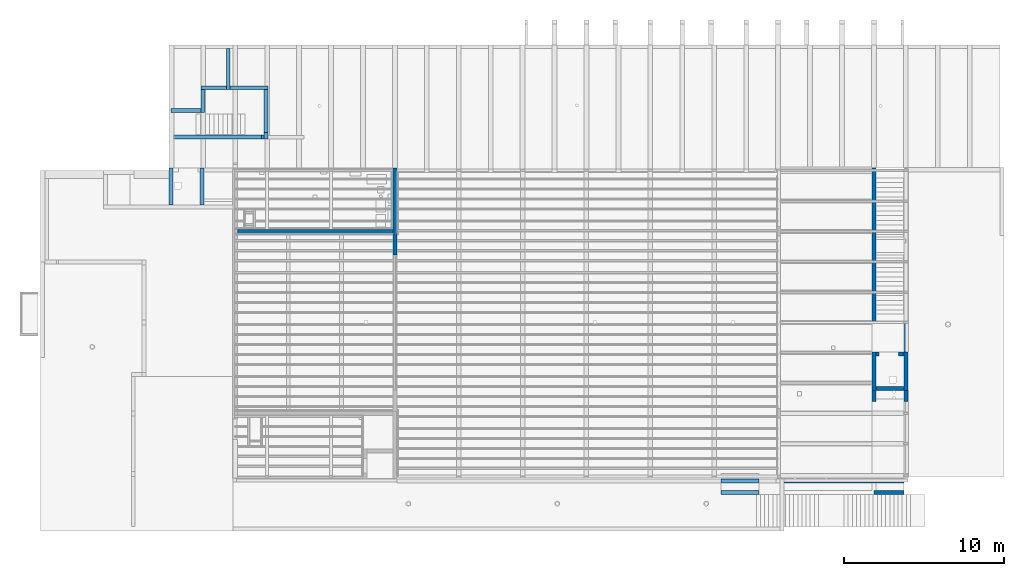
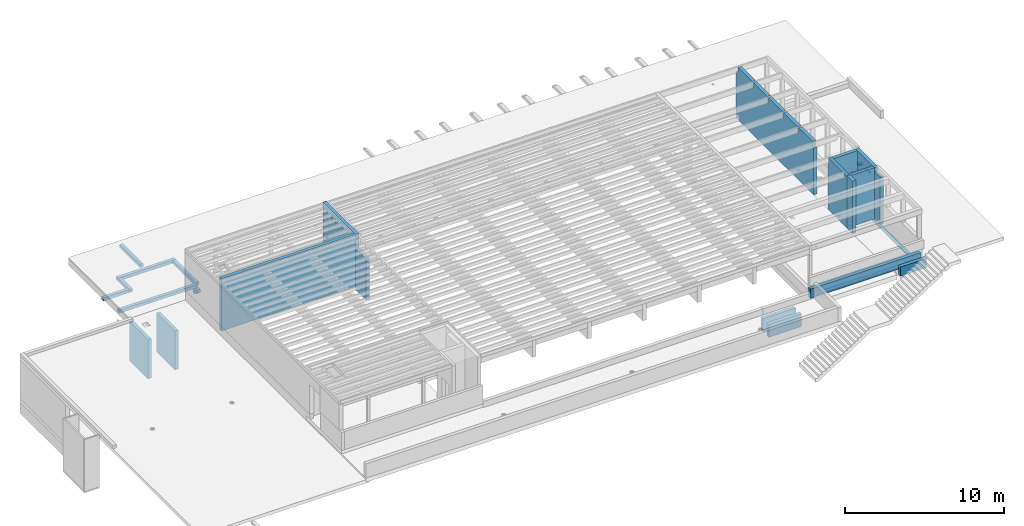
# One storey, part 11 of 14: 25 walls, 16 openings.
"""IFC2X3 building model written with IfcOpenShell, lengths in metres."""

from ifc_helpers import new_model, entity, si_unit, converted_unit, direction, frame, frame_2d, origin, place, context, subcontext, project, spatial, polyline, rectangle, extrude, clip, bounded_halfspace, faceted_brep, material, layer, layer_set, layer_usage, type_object, element, save


model = new_model("IFC2X3")

# Units and contexts
model_context = context("Model", 3, precision=1e-05, world=frame((30.086303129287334, 2.687674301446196, 462.0)), true_north=direction((0.19008937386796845, 0.9817667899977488)))
body_context = subcontext(model_context, "Body", "Model", "MODEL_VIEW")
ifc_project = project(units=[si_unit("LENGTHUNIT", "METRE"), si_unit("AREAUNIT", "SQUARE_METRE"), converted_unit("PLANEANGLEUNIT", "DEGREE", entity("IfcPlaneAngleMeasure", 0.017453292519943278), si_unit("PLANEANGLEUNIT", "RADIAN"), dimensions=[0, 0, 0, 0, 0, 0, 0]), si_unit("VOLUMEUNIT", "CUBIC_METRE")], contexts=[model_context])

# Site, building, storey
site_placement = place(None, origin())
site = spatial("IfcSite", under=ifc_project, at=site_placement, Name="Default", CompositionType="ELEMENT")
building_placement = place(site_placement, origin())
building = spatial("IfcBuilding", under=site, at=building_placement, CompositionType="ELEMENT")
storey_placement = place(building_placement, origin())
storey = spatial("IfcBuildingStorey", under=building, at=storey_placement, Name="FB_E00_OKFB", CompositionType="ELEMENT", Elevation=0.0)

# Walls
ifc_material = material(Name="WS_CONCRETE_REINFORCED")
ifc_layer_1 = layer(ifc_material, 0.24999999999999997)
ifc_layer_set_1 = layer_set([ifc_layer_1], Name="Basiswand:WS_WAL_CON_250")
ifc_layer_usage_1 = layer_usage(ifc_layer_set_1, "AXIS2", "POSITIVE", -0.12499999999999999)
wall_type_1 = type_object("IfcWallType", Name="Basiswand:WS_WAL_CON_250", PredefinedType="STANDARD", material=ifc_layer_set_1)
wall_1_placement = place(storey_placement, frame((48.030338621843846, -1.1696478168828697, 0.7799999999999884), z_axis=(0.0, 0.0, 1.0), x_axis=(0.0, -1.0, 0.0)))
element("IfcWallStandardCase", 1, at=wall_1_placement, inside=storey, type_object=wall_type_1, material=ifc_layer_usage_1, Name="Basiswand:WS_WAL_CON_250", ObjectType="Basiswand:WS_WAL_CON_250", context=body_context, shape_type="SweptSolid", body=[
    extrude(rectangle(XDim=2.299960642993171, YDim=0.24999999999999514, at=frame_2d((1.1499803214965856, 0.0), x_axis=(-1.0, 0.0))), origin(), (0.0, 0.0, 1.0), 3.005000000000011),
])
ifc_layer_usage_2 = layer_usage(ifc_layer_set_1, "AXIS2", "POSITIVE", -0.12499999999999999)
wall_2_placement = place(storey_placement, frame((46.08033900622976, -3.4696084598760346, 0.7799999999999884), z_axis=(0.0, 0.0, 1.0), x_axis=(0.0, 1.0, 0.0)))
element("IfcWallStandardCase", 2, at=wall_2_placement, inside=storey, type_object=wall_type_1, material=ifc_layer_usage_2, Name="Basiswand:WS_WAL_CON_250", ObjectType="Basiswand:WS_WAL_CON_250", context=body_context, shape_type="SweptSolid", body=[
    extrude(rectangle(XDim=2.299960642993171, YDim=0.24999999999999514, at=frame_2d((1.1499803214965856, 0.0), x_axis=(-1.0, 0.0))), origin(), (0.0, 0.0, 1.0), 3.005000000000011),
])

# Wall, opening
ifc_layer_usage_3 = layer_usage(ifc_layer_set_1, "AXIS2", "NEGATIVE", 0.12499999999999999)
wall_3_placement = place(storey_placement, frame((60.105337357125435, -1.179604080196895, 4.035), z_axis=(0.0, 0.0, 1.0), x_axis=(0.0, -1.0, 0.0)))
wall_3 = element("IfcWallStandardCase", 3, at=wall_3_placement, inside=storey, type_object=wall_type_1, material=ifc_layer_usage_3, Name="Basiswand:WS_WAL_CON_250", ObjectType="Basiswand:WS_WAL_CON_250", context=body_context, shape_type="SweptSolid", body=[
    extrude(rectangle(XDim=4.080044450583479, YDim=0.25000000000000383, at=frame_2d((2.0400222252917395, -5.419276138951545e-15), x_axis=(-1.0, 0.0))), origin(), (0.0, 0.0, 1.0), 4.004999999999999),
])
opening_1_placement = place(wall_3_placement, origin())
element("IfcOpeningElement", 4, at=opening_1_placement, cuts=wall_3, Name="Basiswand:WS_WAL_CON_250", ObjectType="Opening", context=body_context, shape_type="SweptSolid", body=[
    extrude(rectangle(XDim=0.39999999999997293, YDim=0.39999999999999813, at=frame_2d((0.0, 2.7755575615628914e-16), x_axis=(1.0, 0.0))), frame((1.3493479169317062, -0.12499999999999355, 3.545000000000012), z_axis=(0.0, 1.0, 0.0), x_axis=(0.0, 0.0, -1.0)), (0.0, 0.0, 1.0), 0.24999999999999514),
])

# Wall
ifc_layer_usage_4 = layer_usage(ifc_layer_set_1, "AXIS2", "NEGATIVE", 0.12499999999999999)
wall_4_placement = place(storey_placement, frame((59.98033735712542, -5.134648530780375, 4.035), z_axis=(0.0, 0.0, 1.0), x_axis=(-1.0, 0.0, 0.0)))
element("IfcWallStandardCase", 5, at=wall_4_placement, inside=storey, type_object=wall_type_1, material=ifc_layer_usage_4, Name="Basiswand:WS_WAL_CON_250", ObjectType="Basiswand:WS_WAL_CON_250", context=body_context, shape_type="SweptSolid", body=[
    extrude(rectangle(XDim=9.735000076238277, YDim=0.2499999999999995, at=frame_2d((4.867500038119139, -4.85722573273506e-17), x_axis=(-1.0, 0.0))), origin(), (0.0, 0.0, 1.0), 4.004999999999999),
])

# Wall, openings
ifc_layer_usage_5 = layer_usage(ifc_layer_set_1, "AXIS2", "NEGATIVE", 0.12499999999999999)
wall_5_placement = place(storey_placement, frame((90.10533735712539, -1.1546477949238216, 3.984999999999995), z_axis=(0.0, 0.0, 1.0), x_axis=(0.0, -1.0, 0.0)))
wall_5 = element("IfcWallStandardCase", 6, at=wall_5_placement, inside=storey, type_object=wall_type_1, material=ifc_layer_usage_5, Name="Basiswand:WS_WAL_CON_250", ObjectType="Basiswand:WS_WAL_CON_250", context=body_context, shape_type="SweptSolid", body=[
    extrude(rectangle(XDim=9.73999963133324, YDim=0.25000000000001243, at=frame_2d((4.86999981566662, 6.938893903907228e-17), x_axis=(-1.0, 0.0))), origin(), (0.0, 0.0, 1.0), 4.020000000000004),
])
opening_2_placement = place(wall_5_placement, origin())
element("IfcOpeningElement", 7, at=opening_2_placement, cuts=wall_5, Name="Basiswand:WS_WAL_CON_250", ObjectType="Opening", context=body_context, shape_type="SweptSolid", body=[
    extrude(rectangle(XDim=0.42499999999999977, YDim=0.20995449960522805, at=frame_2d((1.0824674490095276e-15, 6.245004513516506e-17), x_axis=(1.0, 0.0))), frame((0.10497724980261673, -0.12500000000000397, 3.807500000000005), z_axis=(0.0, 1.0, 0.0), x_axis=(0.0, 0.0, -1.0)), (0.0, 0.0, 1.0), 0.2500000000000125),
])
opening_3_placement = place(wall_5_placement, origin())
element("IfcOpeningElement", 8, at=opening_3_placement, cuts=wall_5, Name="Basiswand:WS_WAL_CON_250", ObjectType="Opening", context=body_context, shape_type="SweptSolid", body=[
    extrude(rectangle(XDim=0.42499999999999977, YDim=0.13999999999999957, at=frame_2d((-5.412337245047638e-16, 8.118505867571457e-16), x_axis=(1.0, 0.0))), frame((2.079999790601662, -0.12500000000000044, 3.8075000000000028), z_axis=(0.0, 1.0, 0.0), x_axis=(0.0, 0.0, -1.0)), (0.0, 0.0, 1.0), 0.2500000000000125),
])
opening_4_placement = place(wall_5_placement, origin())
element("IfcOpeningElement", 9, at=opening_4_placement, cuts=wall_5, Name="Basiswand:WS_WAL_CON_250", ObjectType="Opening", context=body_context, shape_type="SweptSolid", body=[
    extrude(rectangle(XDim=0.42499999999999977, YDim=0.13999999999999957, at=frame_2d((-5.412337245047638e-16, 5.412337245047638e-16), x_axis=(1.0, 0.0))), frame((3.979999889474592, -0.12499999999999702, 3.8075000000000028), z_axis=(0.0, 1.0, 0.0), x_axis=(0.0, 0.0, -1.0)), (0.0, 0.0, 1.0), 0.2500000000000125),
])
opening_5_placement = place(wall_5_placement, origin())
element("IfcOpeningElement", 10, at=opening_5_placement, cuts=wall_5, Name="Basiswand:WS_WAL_CON_250", ObjectType="Opening", context=body_context, shape_type="SweptSolid", body=[
    extrude(rectangle(XDim=0.42499999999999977, YDim=0.13999999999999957, at=frame_2d((-5.412337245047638e-16, -5.412337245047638e-16), x_axis=(1.0, 0.0))), frame((5.879999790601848, -0.12499999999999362, 3.8075000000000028), z_axis=(0.0, 1.0, 0.0), x_axis=(0.0, 0.0, -1.0)), (0.0, 0.0, 1.0), 0.2500000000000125),
])
opening_6_placement = place(wall_5_placement, origin())
element("IfcOpeningElement", 11, at=opening_6_placement, cuts=wall_5, Name="Basiswand:WS_WAL_CON_250", ObjectType="Opening", context=body_context, shape_type="SweptSolid", body=[
    extrude(rectangle(XDim=0.42499999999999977, YDim=0.13999999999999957, at=frame_2d((-5.412337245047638e-16, 5.412337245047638e-16), x_axis=(1.0, 0.0))), frame((7.779999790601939, -0.1249999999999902, 3.8075000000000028), z_axis=(0.0, 1.0, 0.0), x_axis=(0.0, 0.0, -1.0)), (0.0, 0.0, 1.0), 0.2500000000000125),
])
opening_7_placement = place(wall_5_placement, origin())
element("IfcOpeningElement", 12, at=opening_7_placement, cuts=wall_5, Name="Basiswand:WS_WAL_CON_250", ObjectType="Opening", context=body_context, shape_type="SweptSolid", body=[
    extrude(rectangle(XDim=0.42499999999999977, YDim=0.13000000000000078, at=frame_2d((-5.412337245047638e-16, 2.1718737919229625e-15), x_axis=(1.0, 0.0))), frame((9.674999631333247, -0.1249999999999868, 3.8075000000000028), z_axis=(0.0, 1.0, 0.0), x_axis=(0.0, 0.0, -1.0)), (0.0, 0.0, 1.0), 0.2500000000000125),
])

# Walls
ifc_layer_usage_6 = layer_usage(ifc_layer_set_1, "AXIS2", "NEGATIVE", 0.12499999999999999)
wall_6_placement = place(storey_placement, frame((90.10533735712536, -12.6846495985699, 3.984999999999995), z_axis=(0.0, 0.0, 1.0), x_axis=(0.0, -1.0, 0.0)))
element("IfcWallStandardCase", 13, at=wall_6_placement, inside=storey, type_object=wall_type_1, material=ifc_layer_usage_6, Name="Basiswand:WS_WAL_CON_250", ObjectType="Basiswand:WS_WAL_CON_250", context=body_context, shape_type="SweptSolid", body=[
    extrude(rectangle(XDim=2.3999993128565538, YDim=0.2500000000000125, at=frame_2d((1.1999996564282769, 0.0), x_axis=(-1.0, 0.0))), origin(), (0.0, 0.0, 1.0), 3.9300000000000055),
])
ifc_layer_usage_7 = layer_usage(ifc_layer_set_1, "AXIS2", "NEGATIVE", 0.12499999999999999)
wall_7_placement = place(storey_placement, frame((92.10533873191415, -12.684649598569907, 3.984999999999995), z_axis=(0.0, 0.0, 1.0), x_axis=(0.0, -1.0, 0.0)))
element("IfcWallStandardCase", 14, at=wall_7_placement, inside=storey, type_object=wall_type_1, material=ifc_layer_usage_7, Name="Basiswand:WS_WAL_CON_250", ObjectType="Basiswand:WS_WAL_CON_250", context=body_context, shape_type="SweptSolid", body=[
    extrude(rectangle(XDim=2.3999993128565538, YDim=0.2500000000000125, at=frame_2d((1.1999996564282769, 0.0), x_axis=(-1.0, 0.0))), origin(), (0.0, 0.0, 1.0), 3.9300000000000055),
])
ifc_layer_usage_8 = layer_usage(ifc_layer_set_1, "AXIS2", "NEGATIVE", 0.12499999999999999)
wall_8_placement = place(storey_placement, frame((90.23033735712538, -14.959648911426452, 3.984999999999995)))
element("IfcWallStandardCase", 15, at=wall_8_placement, inside=storey, type_object=wall_type_1, material=ifc_layer_usage_8, Name="Basiswand:WS_WAL_CON_250", ObjectType="Basiswand:WS_WAL_CON_250", context=body_context, shape_type="Clipping", body=[
    clip(extrude(rectangle(XDim=1.7500013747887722, YDim=0.2499999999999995, at=frame_2d((0.8750006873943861, 9.71445146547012e-17), x_axis=(-1.0, 0.0))), origin(), (0.0, 0.0, 1.0), 3.9300000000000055), bounded_halfspace(frame((1.7500013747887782, -0.12499999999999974, 0.0), z_axis=(0.0, 0.0, 1.0), x_axis=(-1.0, 0.0, 0.0)), True, frame((1.7500013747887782, -0.12499999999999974, 0.0), z_axis=(0.0, 0.0, 1.0), x_axis=(-1.0, 0.0, 0.0)), polyline([(0.0, 0.0), (0.0, -0.25000000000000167), (1.7000015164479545, -0.25000000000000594), (1.7500013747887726, -0.25000000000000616), (1.7500013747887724, 0.0), (1.7000015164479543, 0.0), (0.0, 0.0)]))),
])
wall_9_placement = place(storey_placement, frame((90.23033735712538, -12.809649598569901, 3.984999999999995)))
element("IfcWall", 16, at=wall_9_placement, inside=storey, type_object=wall_type_1, Name="Basiswand:WS_WAL_CON_250", ObjectType="Basiswand:WS_WAL_CON_250", context=body_context, shape_type="Brep", body=[
    faceted_brep([(1.75000137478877, -0.12499999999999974, 3.9300000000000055), (0.0, -0.12499999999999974, 3.9300000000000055), (0.0, -0.12499999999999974, 0.0), (0.1900000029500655, -0.12499999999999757, 0.0), (0.19000000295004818, -0.12499999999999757, 2.4349999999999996), (1.4100000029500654, -0.12499999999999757, 2.4349999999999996), (1.4100000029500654, -0.12499999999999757, 0.0), (1.75000137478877, -0.12499999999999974, 0.0), (0.0, 0.12499999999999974, 3.9300000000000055), (1.7500013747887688, 0.12499999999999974, 3.9300000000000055), (1.7500013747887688, 0.12499999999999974, 0.0), (1.4100000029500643, 0.12500000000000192, 0.0), (1.410000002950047, 0.12500000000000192, 2.4349999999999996), (0.19000000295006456, 0.12500000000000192, 2.4349999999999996), (0.19000000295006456, 0.12500000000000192, 0.0), (0.0, 0.12499999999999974, 0.0)], [[[0, 1, 2, 3, 4, 5, 6, 7]], [[8, 9, 10, 11, 12, 13, 14, 15]], [[1, 0, 9, 8]], [[1, 8, 15, 2]], [[9, 0, 7, 10]], [[5, 12, 11, 6]], [[12, 5, 4, 13]], [[13, 4, 3, 14]], [[7, 6, 11, 10]], [[3, 2, 15, 14]]]),
])
ifc_layer_usage_9 = layer_usage(ifc_layer_set_1, "AXIS2", "NEGATIVE", 0.12499999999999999)
wall_10_placement = place(storey_placement, frame((92.10533873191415, -15.08464891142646, 3.984999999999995), z_axis=(0.0, 0.0, 1.0), x_axis=(0.0, -1.0, 0.0)))
element("IfcWallStandardCase", 17, at=wall_10_placement, inside=storey, type_object=wall_type_1, material=ifc_layer_usage_9, Name="Basiswand:WS_WAL_CON_250", ObjectType="Basiswand:WS_WAL_CON_250", context=body_context, shape_type="Clipping", body=[
    clip(extrude(rectangle(XDim=0.7093431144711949, YDim=0.2500000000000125, at=frame_2d((0.35467155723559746, 0.0), x_axis=(-1.0, 0.0))), origin(), (0.0, 0.0, 1.0), 3.6200000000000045), bounded_halfspace(frame((0.7093431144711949, -0.12499999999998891, 0.0), z_axis=(0.0, 0.0, 1.0), x_axis=(0.0, -1.0, 0.0)), True, frame((0.7093431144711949, -0.12499999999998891, 0.0), z_axis=(0.0, 0.0, 1.0), x_axis=(0.0, -1.0, 0.0)), polyline([(0.0, 0.0), (-0.24999999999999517, 0.0), (-0.24999999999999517, -0.7093431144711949), (0.0, -0.7093431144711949), (0.0, -0.15934291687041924), (0.0, 0.0)]))),
])
wall_11_placement = place(storey_placement, frame((90.10533735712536, -15.08464891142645, 3.9800000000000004), z_axis=(0.0, 0.0, 1.0), x_axis=(0.0, -1.0, 0.0)))
element("IfcWall", 18, at=wall_11_placement, inside=storey, type_object=wall_type_1, Name="Basiswand:WS_WAL_CON_250", ObjectType="Basiswand:WS_WAL_CON_250", context=body_context, shape_type="Brep", body=[
    faceted_brep([(0.7093431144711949, -0.12499999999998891, 4.024999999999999), (0.0, -0.12499999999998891, 4.024999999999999), (0.0, -0.12499999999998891, 3.935000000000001), (0.0, -0.12499999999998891, 0.004999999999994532), (0.07434446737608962, -0.12499999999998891, 0.004999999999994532), (0.07434446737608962, -0.12499999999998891, 0.0), (0.4743439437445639, -0.12499999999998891, 0.0), (0.47434394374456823, -0.12499999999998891, 0.004999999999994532), (0.7093431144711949, -0.12499999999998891, 0.004999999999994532), (0.0, 0.12500000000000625, 4.024999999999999), (0.7093431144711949, 0.12500000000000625, 4.024999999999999), (0.7093431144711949, 0.12500000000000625, 0.004999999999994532), (0.5500001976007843, 0.12500000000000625, 0.004999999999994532), (0.4743439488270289, 0.12500000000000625, 0.004999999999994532), (0.47434394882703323, 0.12500000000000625, 0.0), (0.07434446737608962, 0.12500000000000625, 0.0), (0.07434446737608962, 0.12500000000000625, 0.004999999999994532), (0.0, 0.12500000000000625, 0.004999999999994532), (0.0, 0.12500000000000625, 3.935)], [[[0, 1, 2, 3, 4, 5, 6, 7, 8]], [[9, 10, 11, 12, 13, 14, 15, 16, 17, 18]], [[6, 5, 15, 14]], [[10, 0, 8, 11]], [[1, 0, 10, 9]], [[16, 4, 3, 17]], [[1, 9, 18, 17, 3, 2]], [[13, 7, 6, 14]], [[4, 16, 15, 5]], [[7, 13, 12, 11, 8]]]),
])
ifc_layer_usage_10 = layer_usage(ifc_layer_set_1, "AXIS2", "NEGATIVE", 0.12499999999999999)
wall_12_placement = place(storey_placement, frame((60.105337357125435, -5.259648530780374, 3.7850000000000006), z_axis=(0.0, 0.0, 1.0), x_axis=(0.0, -1.0, 0.0)))
element("IfcWallStandardCase", 19, at=wall_12_placement, inside=storey, type_object=wall_type_1, material=ifc_layer_usage_10, Name="Basiswand:WS_WAL_CON_250", ObjectType="Basiswand:WS_WAL_CON_250", context=body_context, shape_type="SweptSolid", body=[
    extrude(rectangle(XDim=1.3399996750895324, YDim=0.24999999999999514, at=frame_2d((0.6699998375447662, 1.2004286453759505e-15), x_axis=(-1.0, 0.0))), origin(), (0.0, 0.0, 1.0), 3.1949999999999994),
])
ifc_layer_usage_11 = layer_usage(ifc_layer_set_1, "AXIS2", "POSITIVE", -0.12499999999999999)
wall_13_placement = place(storey_placement, frame((92.10533873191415, -20.484648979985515, 3.68), z_axis=(0.0, 0.0, 1.0), x_axis=(0.0, 1.0, 0.0)))
element("IfcWallStandardCase", 20, at=wall_13_placement, inside=storey, type_object=wall_type_1, material=ifc_layer_usage_11, Name="Basiswand:WS_WAL_CON_250", ObjectType="Basiswand:WS_WAL_CON_250", context=body_context, shape_type="SweptSolid", body=[
    extrude(rectangle(XDim=10.550040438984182, YDim=0.2500000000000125, at=frame_2d((5.275020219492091, 0.0), x_axis=(-1.0, 0.0))), origin(), (0.0, 0.0, 1.0), 0.05499999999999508),
])
ifc_layer_usage_12 = layer_usage(ifc_layer_set_1, "AXIS2", "POSITIVE", -0.12499999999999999)
wall_14_placement = place(storey_placement, frame((82.92033735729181, -21.489656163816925, 2.8599999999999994), z_axis=(0.0, 0.0, 1.0), x_axis=(-1.0, 0.0, 0.0)))
element("IfcWallStandardCase", 21, at=wall_14_placement, inside=storey, type_object=wall_type_1, material=ifc_layer_usage_12, Name="Basiswand:WS_WAL_CON_250", ObjectType="Basiswand:WS_WAL_CON_250", context=body_context, shape_type="Clipping", body=[
    clip(extrude(rectangle(XDim=2.3850001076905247, YDim=0.2500000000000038, at=frame_2d((1.1925000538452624, 1.609823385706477e-15), x_axis=(-1.0, 0.0))), origin(), (0.0, 0.0, 1.0), 0.9900000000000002), bounded_halfspace(frame((2.385000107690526, -0.12499999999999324, 0.0), z_axis=(0.0, 0.0, 1.0), x_axis=(0.0, -1.0, 0.0)), True, frame((2.385000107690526, -0.12499999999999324, 0.0), z_axis=(0.0, 0.0, 1.0), x_axis=(0.0, -1.0, 0.0)), polyline([(0.0, 0.0), (-0.2499999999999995, 0.0), (-0.2500000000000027, -2.3850001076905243), (0.0, -2.3850001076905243), (0.0, 0.0)]))),
])
ifc_layer_usage_13 = layer_usage(ifc_layer_set_1, "AXIS2", "POSITIVE", -0.12499999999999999)
wall_15_placement = place(storey_placement, frame((82.92033735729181, -20.76455991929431, 2.8599999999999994), z_axis=(0.0, 0.0, 1.0), x_axis=(-1.0, 0.0, 0.0)))
element("IfcWallStandardCase", 22, at=wall_15_placement, inside=storey, type_object=wall_type_1, material=ifc_layer_usage_13, Name="Basiswand:WS_WAL_CON_250", ObjectType="Basiswand:WS_WAL_CON_250", context=body_context, shape_type="SweptSolid", body=[
    extrude(rectangle(XDim=2.3850001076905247, YDim=0.2500000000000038, at=frame_2d((1.1925000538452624, 1.609823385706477e-15), x_axis=(-1.0, 0.0))), origin(), (0.0, 0.0, 1.0), 0.9900000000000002),
])
ifc_layer_usage_14 = layer_usage(ifc_layer_set_1, "AXIS2", "POSITIVE", -0.12499999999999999)
wall_16_placement = place(storey_placement, frame((91.98033873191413, -21.489656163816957, 4.21), z_axis=(0.0, 0.0, 1.0), x_axis=(-1.0, 0.0, 0.0)))
element("IfcWallStandardCase", 23, at=wall_16_placement, inside=storey, type_object=wall_type_1, material=ifc_layer_usage_14, Name="Basiswand:WS_WAL_CON_250", ObjectType="Basiswand:WS_WAL_CON_250", context=body_context, shape_type="SweptSolid", body=[
    extrude(rectangle(XDim=1.8750018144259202, YDim=0.25000000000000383, at=frame_2d((0.9375009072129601, 8.049116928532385e-16), x_axis=(-1.0, 0.0))), origin(), (0.0, 0.0, 1.0), 0.7099999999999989),
])
ifc_layer_usage_15 = layer_usage(ifc_layer_set_1, "AXIS2", "POSITIVE", -0.12499999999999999)
wall_17_placement = place(storey_placement, frame((91.98033873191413, -20.764559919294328, 4.209999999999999), z_axis=(0.0, 0.0, 1.0), x_axis=(-1.0, 0.0, 0.0)))
element("IfcWallStandardCase", 24, at=wall_17_placement, inside=storey, type_object=wall_type_1, material=ifc_layer_usage_15, Name="Basiswand:WS_WAL_CON_250", ObjectType="Basiswand:WS_WAL_CON_250", context=body_context, shape_type="SweptSolid", body=[
    extrude(rectangle(XDim=8.00500192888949, YDim=0.2500000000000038, at=frame_2d((4.002500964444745, -3.191891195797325e-16), x_axis=(-1.0, 0.0))), origin(), (0.0, 0.0, 1.0), 0.71),
])

# Wall, openings
ifc_layer_2 = layer(ifc_material, 0.24)
ifc_layer_set_2 = layer_set([ifc_layer_2], Name="Basiswand:WS_WAL_CON_240")
ifc_layer_usage_16 = layer_usage(ifc_layer_set_2, "AXIS2", "POSITIVE", -0.12)
wall_type_2 = type_object("IfcWallType", Name="Basiswand:WS_WAL_CON_240", PredefinedType="STANDARD", material=ifc_layer_set_2)
wall_18_placement = place(storey_placement, frame((46.24543860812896, 0.7853516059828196, 3.1919999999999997)))
wall_18 = element("IfcWallStandardCase", 25, at=wall_18_placement, inside=storey, type_object=wall_type_2, material=ifc_layer_usage_16, Name="Basiswand:WS_WAL_CON_240", ObjectType="Basiswand:WS_WAL_CON_240", context=body_context, shape_type="SweptSolid", body=[
    extrude(rectangle(XDim=5.669898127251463, YDim=0.2400000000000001, at=frame_2d((2.8349490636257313, 1.3877787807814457e-17), x_axis=(-1.0, 0.0))), origin(), (0.0, 0.0, 1.0), 0.23800000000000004),
])
opening_8_placement = place(wall_18_placement, origin())
element("IfcOpeningElement", 26, at=opening_8_placement, cuts=wall_18, Name="Basiswand:WS_WAL_CON_240", ObjectType="Opening", context=body_context, shape_type="SweptSolid", body=[
    extrude(rectangle(XDim=0.49000000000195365, YDim=0.31999999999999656, at=frame_2d((0.0, 4.3298697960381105e-15), x_axis=(1.0, 0.0))), frame((3.859898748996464, -0.12000494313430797, 0.4830000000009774), z_axis=(0.0, 1.0, 0.0), x_axis=(0.0, 0.0, -1.0)), (0.0, 0.0, 1.0), 0.23999999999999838),
])
opening_9_placement = place(wall_18_placement, origin())
element("IfcOpeningElement", 27, at=opening_9_placement, cuts=wall_18, Name="Basiswand:WS_WAL_CON_240", ObjectType="Opening", context=body_context, shape_type="SweptSolid", body=[
    extrude(rectangle(XDim=0.49000000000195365, YDim=0.31999999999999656, at=frame_2d((0.0, -4.3298697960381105e-15), x_axis=(1.0, 0.0))), frame((1.8599017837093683, -0.12000494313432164, 0.48299999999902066), z_axis=(0.0, 1.0, 0.0), x_axis=(0.0, 0.0, -1.0)), (0.0, 0.0, 1.0), 0.2399999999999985),
])
opening_10_placement = place(wall_18_placement, origin())
element("IfcOpeningElement", 28, at=opening_10_placement, cuts=wall_18, Name="Basiswand:WS_WAL_CON_240", ObjectType="Opening", context=body_context, shape_type="SweptSolid", body=[
    extrude(rectangle(XDim=0.48999999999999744, YDim=0.019900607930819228, at=frame_2d((2.7755575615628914e-16, -4.331604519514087e-15), x_axis=(1.0, 0.0))), frame((0.009950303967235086, -0.1200049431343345, 0.4829999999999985), z_axis=(0.0, 1.0, 0.0), x_axis=(0.0, 0.0, -1.0)), (0.0, 0.0, 1.0), 0.2399999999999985),
])

# Wall
ifc_layer_usage_17 = layer_usage(ifc_layer_set_2, "AXIS2", "POSITIVE", -0.12)
wall_19_placement = place(storey_placement, frame((49.67033792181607, 3.745391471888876, 3.687), z_axis=(0.0, 0.0, 1.0), x_axis=(0.0, 1.0, 0.0)))
element("IfcWallStandardCase", 29, at=wall_19_placement, inside=storey, type_object=wall_type_2, material=ifc_layer_usage_17, Name="Basiswand:WS_WAL_CON_240", ObjectType="Basiswand:WS_WAL_CON_240", context=body_context, shape_type="SweptSolid", body=[
    extrude(rectangle(XDim=2.5649603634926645, YDim=0.23999999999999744, at=frame_2d((1.2824801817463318, -1.3183898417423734e-16), x_axis=(-1.0, 0.0))), origin(), (0.0, 0.0, 1.0), 0.23800000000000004),
])

# Wall, openings
ifc_layer_usage_18 = layer_usage(ifc_layer_set_2, "AXIS2", "NEGATIVE", 0.12)
wall_20_placement = place(storey_placement, frame((47.950337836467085, 3.865391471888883, 3.1919999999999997)))
wall_20 = element("IfcWallStandardCase", 30, at=wall_20_placement, inside=storey, type_object=wall_type_2, material=ifc_layer_usage_18, Name="Basiswand:WS_WAL_CON_240", ObjectType="Basiswand:WS_WAL_CON_240", context=body_context, shape_type="SweptSolid", body=[
    extrude(rectangle(XDim=4.204998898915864, YDim=0.24000000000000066, at=frame_2d((2.102499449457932, -5.689893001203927e-16), x_axis=(-1.0, 0.0))), origin(), (0.0, 0.0, 1.0), 0.23800000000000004),
])
opening_11_placement = place(wall_20_placement, origin())
element("IfcOpeningElement", 31, at=opening_11_placement, cuts=wall_20, Name="Basiswand:WS_WAL_CON_240", ObjectType="Opening", context=body_context, shape_type="SweptSolid", body=[
    extrude(rectangle(XDim=0.49000000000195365, YDim=0.31999999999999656, at=frame_2d((0.0, -4.3298697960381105e-15), x_axis=(1.0, 0.0))), frame((2.1549995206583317, -0.11999999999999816, 0.4830000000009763), z_axis=(0.0, 1.0, 0.0), x_axis=(0.0, 0.0, -1.0)), (0.0, 0.0, 1.0), 0.23999999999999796),
])
opening_12_placement = place(wall_20_placement, origin())
element("IfcOpeningElement", 32, at=opening_12_placement, cuts=wall_20, Name="Basiswand:WS_WAL_CON_240", ObjectType="Opening", context=body_context, shape_type="SweptSolid", body=[
    extrude(rectangle(XDim=0.4899999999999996, YDim=0.31500255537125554, at=frame_2d((-2.636779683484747e-16, 4.3298697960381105e-15), x_axis=(1.0, 0.0))), frame((0.15750127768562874, -0.11999999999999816, 0.48299999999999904), z_axis=(0.0, 1.0, 0.0), x_axis=(0.0, 0.0, -1.0)), (0.0, 0.0, 1.0), 0.23999999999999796),
])
opening_13_placement = place(wall_20_placement, origin())
element("IfcOpeningElement", 33, at=opening_13_placement, cuts=wall_20, Name="Basiswand:WS_WAL_CON_240", ObjectType="Opening", context=body_context, shape_type="SweptSolid", body=[
    extrude(rectangle(XDim=0.48999999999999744, YDim=0.20999999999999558, at=frame_2d((2.636779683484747e-16, 4.3298697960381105e-15), x_axis=(1.0, 0.0))), frame((4.099998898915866, -0.1199999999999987, 0.4829999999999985), z_axis=(0.0, 1.0, 0.0), x_axis=(0.0, 0.0, -1.0)), (0.0, 0.0, 1.0), 0.2399999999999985),
])

# Wall, opening
ifc_layer_usage_19 = layer_usage(ifc_layer_set_2, "AXIS2", "POSITIVE", -0.12)
wall_21_placement = place(storey_placement, frame((52.035336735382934, 0.8803515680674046, 3.1919999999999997), z_axis=(0.0, 0.0, 1.0), x_axis=(0.0, 1.0, 0.0)))
wall_21 = element("IfcWallStandardCase", 34, at=wall_21_placement, inside=storey, type_object=wall_type_2, material=ifc_layer_usage_19, Name="Basiswand:WS_WAL_CON_240", ObjectType="Basiswand:WS_WAL_CON_240", context=body_context, shape_type="SweptSolid", body=[
    extrude(rectangle(XDim=2.8650399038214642, YDim=0.23999999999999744, at=frame_2d((1.4325199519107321, -3.7470027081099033e-16), x_axis=(-1.0, 0.0))), origin(), (0.0, 0.0, 1.0), 0.23800000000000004),
])
opening_14_placement = place(wall_21_placement, origin())
element("IfcOpeningElement", 35, at=opening_14_placement, cuts=wall_21, Name="Basiswand:WS_WAL_CON_240", ObjectType="Recess", context=body_context, shape_type="SweptSolid", body=[
    extrude(rectangle(XDim=0.48999999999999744, YDim=0.2399999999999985, at=frame_2d((0.0, -5.412337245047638e-16), x_axis=(1.0, 0.0))), frame((2.9850399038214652, -0.12000000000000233, 0.4829999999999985), z_axis=(0.0, 1.0, 0.0), x_axis=(0.0, 0.0, -1.0)), (0.0, 0.0, 1.0), 0.20999999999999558),
])

ifc_layer_usage_20 = layer_usage(ifc_layer_set_2, "AXIS2", "POSITIVE", -0.12)
wall_22_placement = place(storey_placement, frame((48.070337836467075, 2.3203510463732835, 3.1919999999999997), z_axis=(0.0, 0.0, 1.0), x_axis=(0.0, 1.0, 0.0)))
wall_22 = element("IfcWallStandardCase", 36, at=wall_22_placement, inside=storey, type_object=wall_type_2, material=ifc_layer_usage_20, Name="Basiswand:WS_WAL_CON_240", ObjectType="Basiswand:WS_WAL_CON_240", context=body_context, shape_type="SweptSolid", body=[
    extrude(rectangle(XDim=1.4250404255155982, YDim=0.23999999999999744, at=frame_2d((0.7125202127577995, 4.0245584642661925e-16), x_axis=(-1.0, 0.0))), origin(), (0.0, 0.0, 1.0), 0.23800000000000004),
])
opening_15_placement = place(wall_22_placement, origin())
element("IfcOpeningElement", 37, at=opening_15_placement, cuts=wall_22, Name="Basiswand:WS_WAL_CON_240", ObjectType="Opening", context=body_context, shape_type="SweptSolid", body=[
    extrude(rectangle(XDim=0.4899999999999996, YDim=0.23999999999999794, at=frame_2d((-2.7755575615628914e-16, 0.0), x_axis=(1.0, 0.0))), frame((1.5450404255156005, -0.1950025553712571, 0.4829999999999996), z_axis=(0.0, 1.0, 0.0), x_axis=(0.0, 0.0, -1.0)), (0.0, 0.0, 1.0), 0.31500255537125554),
])

ifc_layer_usage_21 = layer_usage(ifc_layer_set_2, "AXIS2", "NEGATIVE", 0.12)
wall_23_placement = place(storey_placement, frame((46.08043778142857, 2.4403510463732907, 3.1919999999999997)))
wall_23 = element("IfcWallStandardCase", 38, at=wall_23_placement, inside=storey, type_object=wall_type_2, material=ifc_layer_usage_21, Name="Basiswand:WS_WAL_CON_240", ObjectType="Basiswand:WS_WAL_CON_240", context=body_context, shape_type="SweptSolid", body=[
    extrude(rectangle(XDim=1.8699000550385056, YDim=0.24000000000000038, at=frame_2d((0.9349500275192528, -3.8163916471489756e-16), x_axis=(-1.0, 0.0))), origin(), (0.0, 0.0, 1.0), 0.23800000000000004),
])
opening_16_placement = place(wall_23_placement, origin())
element("IfcOpeningElement", 39, at=opening_16_placement, cuts=wall_23, Name="Basiswand:WS_WAL_CON_240", ObjectType="Opening", context=body_context, shape_type="SweptSolid", body=[
    extrude(rectangle(XDim=0.489999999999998, YDim=0.18490143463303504, at=frame_2d((-2.636779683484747e-16, 0.0), x_axis=(1.0, 0.0))), frame((0.0924507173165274, -0.11999999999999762, 0.4829999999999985), z_axis=(0.0, 1.0, 0.0), x_axis=(0.0, 0.0, -1.0)), (0.0, 0.0, 1.0), 0.23999999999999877),
])

# Walls
ifc_layer_usage_22 = layer_usage(ifc_layer_set_2, "AXIS2", "POSITIVE", -0.12)
wall_24_placement = place(storey_placement, frame((52.03533673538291, 0.6653466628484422, 2.7399999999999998), z_axis=(0.0, 0.0, 1.0), x_axis=(0.0, 1.0, 0.0)))
element("IfcWallStandardCase", 40, at=wall_24_placement, inside=storey, type_object=wall_type_2, material=ifc_layer_usage_22, Name="Basiswand:WS_WAL_CON_240", ObjectType="Basiswand:WS_WAL_CON_240", context=body_context, shape_type="SweptSolid", body=[
    extrude(rectangle(XDim=0.4000000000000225, YDim=0.2399999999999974, at=frame_2d((0.20000000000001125, -6.175615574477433e-16), x_axis=(-1.0, 0.0))), origin(), (0.0, 0.0, 1.0), 0.25000000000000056),
])
ifc_layer_usage_23 = layer_usage(ifc_layer_set_2, "AXIS2", "POSITIVE", -0.12)
wall_25_placement = place(storey_placement, frame((51.91533673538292, 0.7853466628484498, 2.7399999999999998), z_axis=(0.0, 0.0, 1.0), x_axis=(-1.0, 0.0, 0.0)))
element("IfcWallStandardCase", 41, at=wall_25_placement, inside=storey, type_object=wall_type_2, material=ifc_layer_usage_23, Name="Basiswand:WS_WAL_CON_240", ObjectType="Basiswand:WS_WAL_CON_240", context=body_context, shape_type="SweptSolid", body=[
    extrude(rectangle(XDim=0.15998669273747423, YDim=0.24000000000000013, at=frame_2d((0.07999334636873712, 6.938893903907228e-18), x_axis=(-1.0, 0.0))), origin(), (0.0, 0.0, 1.0), 0.25000000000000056),
])

save(model, "model.ifc")
